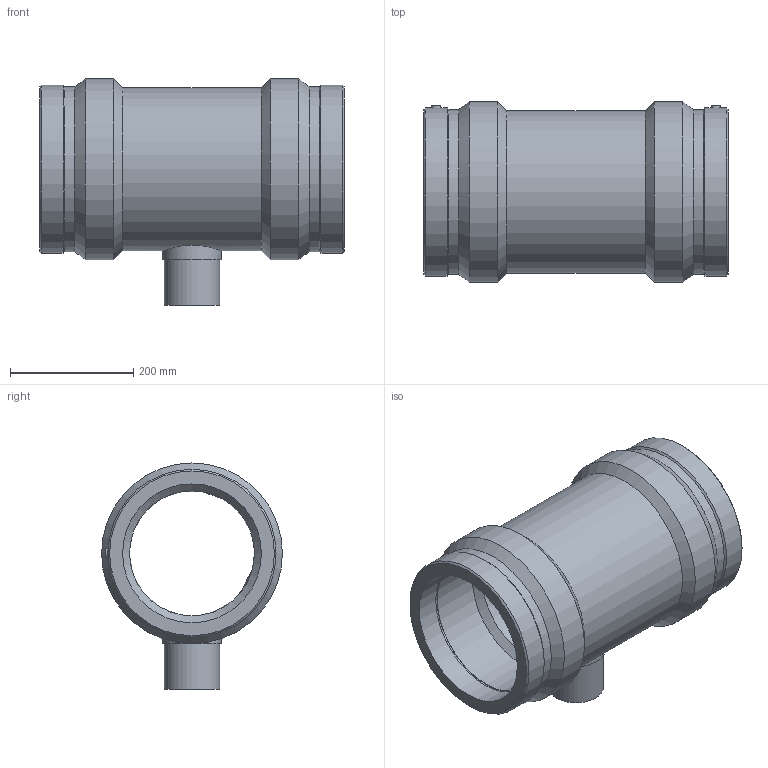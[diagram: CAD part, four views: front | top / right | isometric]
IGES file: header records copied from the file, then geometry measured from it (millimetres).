
Global section: file name: 491404225090.ipt; native system: Autodesk Inventor 2015; preprocessor: unknown; author: KIM; date: 20171106.093904; units: millimetre
Bounding box: 494 x 293 x 366.5 mm (x, y, z)
Volume: 11171079.8 mm3; surface area: 864137.9 mm2
Topology: 1 solids, 1 shells, 45 faces, 101 edges, 66 vertices
Faces by surface type: plane 12, revolution 12, cylinder 11, cone 10
Full cylindrical faces by diameter (mm): 4 x2, 90 x1, 94.5 x1, 263.7 x1, 267.04 x2, 272.49 x2, 293 x2
